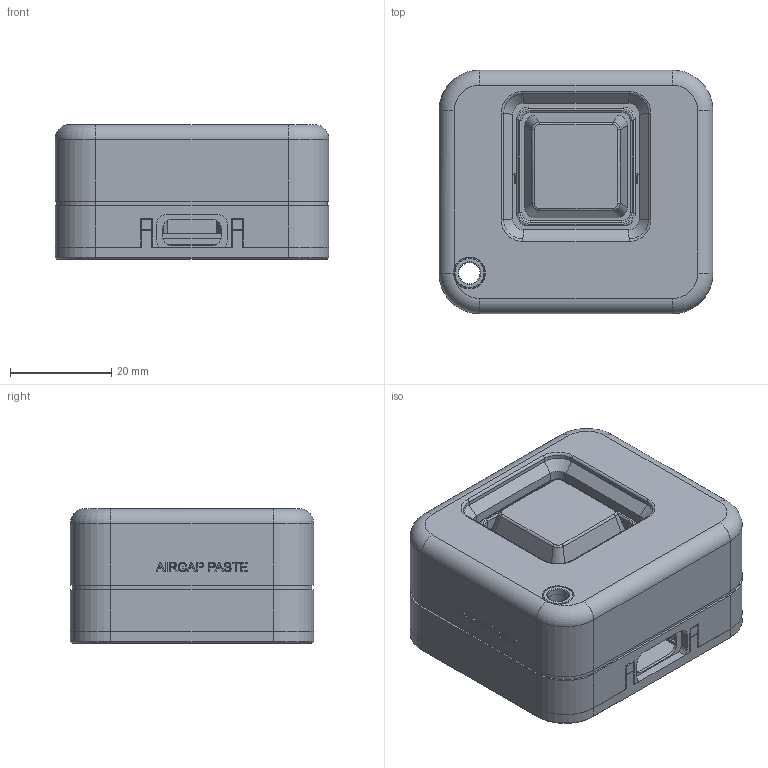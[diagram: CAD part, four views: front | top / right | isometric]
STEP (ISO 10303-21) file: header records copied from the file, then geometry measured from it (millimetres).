
FILE_DESCRIPTION(('Open CASCADE Model'),'2;1');
FILE_NAME('Open CASCADE Shape Model','2026-10-06T21:18:31',('Author'),( 'Open CASCADE'),'Open CASCADE STEP processor 7.9','Open CASCADE 7.9' ,'Unknown');
FILE_SCHEMA(('AUTOMOTIVE_DESIGN { 1 0 10303 214 1 1 1 1 }'));
Length unit declared in the file: millimetre
Products named in the file (10): AirGap_Paste_Pocket_Recess; 01_shell; 02_base; 03_keycap; 04_halo; 09_eye_bushing; 05_mx_plate; 07_xiao_wedge; 06_lightguide_left; 06_lightguide_right
Assembly tree (9 placements, depth 2):
  AirGap_Paste_Pocket_Recess
    01_shell
    02_base
    03_keycap
    04_halo
    09_eye_bushing
    05_mx_plate
    07_xiao_wedge
    06_lightguide_left
    06_lightguide_right
Bounding box: 54 x 48 x 26.6 mm (x, y, z)
Volume: 25681.9 mm3; surface area: 29064.6 mm2
Topology: 9 solids, 9 shells, 802 faces, 2120 edges, 1380 vertices
Faces by surface type: plane 482, extrusion 100, cylinder 98, bspline 98, torus 18, cone 6
Full cylindrical faces by diameter (mm): 3.4 x6, 4.2 x3, 5.3 x1, 6 x1, 6.3 x1
Entity records: 53941 total; most frequent: CARTESIAN_POINT 14542, DIRECTION 5990, ORIENTED_EDGE 4240, PCURVE 4240, DEFINITIONAL_REPRESENTATION 4240, VECTOR 4177, LINE 4077, EDGE_CURVE 2120
